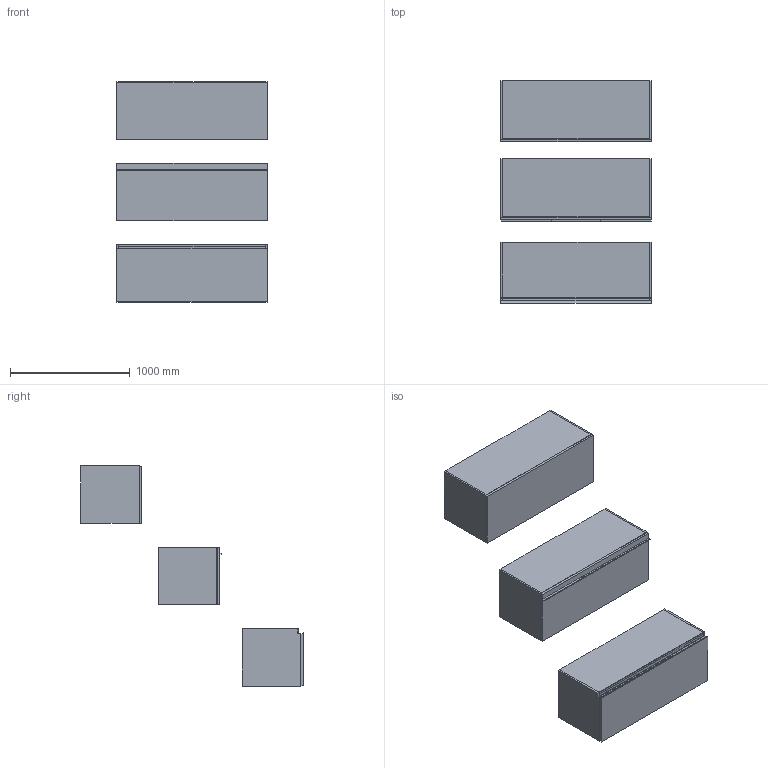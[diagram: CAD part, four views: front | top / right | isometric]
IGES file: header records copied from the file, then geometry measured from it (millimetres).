
Start section: Data from Parasolid IGES Translator 19.0.9, Copyright(c) 2006 Siemens PL M Software. All Rights Reserved.
Global section: file name: noorth-SI-H 48 D 51 W 126_8569.igs; native system: By Siemens PLM Incorporated; preprocessor: XPlus GENERIC/IGES 19.0.9; author: Noname; organization: Noname; date: 20200601.112916; units: metre
Bounding box: 1260 x 1857.1 x 1840.01 mm (x, y, z)
Volume: 117996377.2 mm3; surface area: 17714322.9 mm2
Topology: 20 solids, 20 shells, 178 faces, 382 edges, 234 vertices
Faces by surface type: plane 134, extrusion 16, bspline 16, cylinder 12
